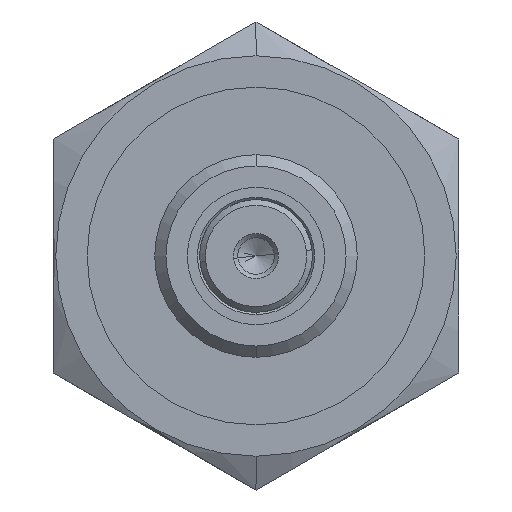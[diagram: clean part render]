
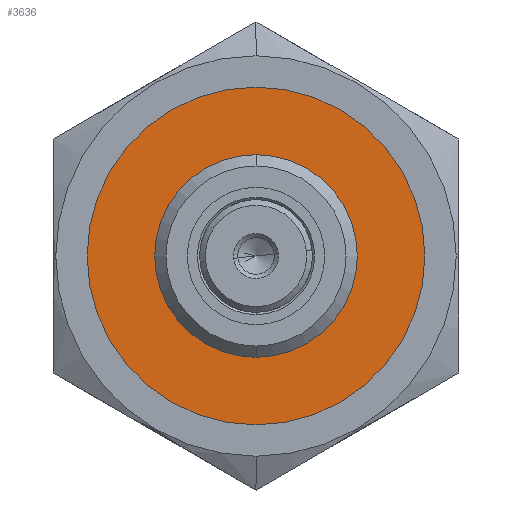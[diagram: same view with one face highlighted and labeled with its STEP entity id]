
A CAD part, front view. The second image highlights one B-rep face of the part: STEP entity #3636.
In plain terms, the highlighted planar face has unit normal (0, -1, 0).
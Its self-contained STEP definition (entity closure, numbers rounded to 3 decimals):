
#3318 = VERTEX_POINT ( 'NONE', #11553 ) ;
#3354 = EDGE_CURVE ( 'NONE', #3355, #3318, #11750, .T. ) ;
#3355 = VERTEX_POINT ( 'NONE', #11741 ) ;
#3472 = VERTEX_POINT ( 'NONE', #12148 ) ;
#3483 = EDGE_CURVE ( 'NONE', #3472, #3493, #12111, .T. ) ;
#3493 = VERTEX_POINT ( 'NONE', #12184 ) ;
#3553 = EDGE_LOOP ( 'NONE', ( #3554, #3556 ) ) ;
#3554 = ORIENTED_EDGE ( 'NONE', *, *, #3555, .T. ) ;
#3555 = EDGE_CURVE ( 'NONE', #3318, #3355, #12250, .T. ) ;
#3556 = ORIENTED_EDGE ( 'NONE', *, *, #3354, .T. ) ;
#3573 = EDGE_LOOP ( 'NONE', ( #3574, #3575 ) ) ;
#3574 = ORIENTED_EDGE ( 'NONE', *, *, #3483, .F. ) ;
#3575 = ORIENTED_EDGE ( 'NONE', *, *, #3603, .F. ) ;
#3603 = EDGE_CURVE ( 'NONE', #3493, #3472, #12299, .T. ) ;
#3636 = ADVANCED_FACE ( 'NONE', ( #12387, #12395 ), #12394, .F. ) ;
#11553 = CARTESIAN_POINT ( 'NONE',  ( 0., -37.5, 8.5 ) ) ;
#11741 = CARTESIAN_POINT ( 'NONE',  ( 0., -37.5, -8.5 ) ) ;
#11742 = DIRECTION ( 'NONE',  ( 0., 0., 1. ) ) ;
#11743 = DIRECTION ( 'NONE',  ( 0., 1., 0. ) ) ;
#11744 = CARTESIAN_POINT ( 'NONE',  ( 0., -37.5, 0. ) ) ;
#11745 = AXIS2_PLACEMENT_3D ( 'NONE', #11744, #11743, #11742 ) ;
#11750 = CIRCLE ( 'NONE', #11745, 8.5 ) ;
#12104 = CARTESIAN_POINT ( 'NONE',  ( 0., -37.5, 0. ) ) ;
#12111 = CIRCLE ( 'NONE', #12123, 15. ) ;
#12121 = DIRECTION ( 'NONE',  ( 0., 0., 1. ) ) ;
#12122 = DIRECTION ( 'NONE',  ( 0., 1., 0. ) ) ;
#12123 = AXIS2_PLACEMENT_3D ( 'NONE', #12104, #12122, #12121 ) ;
#12148 = CARTESIAN_POINT ( 'NONE',  ( 0., -37.5, 15. ) ) ;
#12184 = CARTESIAN_POINT ( 'NONE',  ( 0., -37.5, -15. ) ) ;
#12246 = DIRECTION ( 'NONE',  ( 0., 0., 1. ) ) ;
#12247 = DIRECTION ( 'NONE',  ( 0., 1., 0. ) ) ;
#12248 = CARTESIAN_POINT ( 'NONE',  ( 0., -37.5, 0. ) ) ;
#12249 = AXIS2_PLACEMENT_3D ( 'NONE', #12248, #12247, #12246 ) ;
#12250 = CIRCLE ( 'NONE', #12249, 8.5 ) ;
#12295 = DIRECTION ( 'NONE',  ( 0., 0., 1. ) ) ;
#12296 = DIRECTION ( 'NONE',  ( 0., 1., 0. ) ) ;
#12297 = CARTESIAN_POINT ( 'NONE',  ( 0., -37.5, 0. ) ) ;
#12298 = AXIS2_PLACEMENT_3D ( 'NONE', #12297, #12296, #12295 ) ;
#12299 = CIRCLE ( 'NONE', #12298, 15. ) ;
#12387 = FACE_BOUND ( 'NONE', #3553, .T. ) ;
#12388 = CARTESIAN_POINT ( 'NONE',  ( 15., -37.5, 0. ) ) ;
#12394 = PLANE ( 'NONE',  #12404 ) ;
#12395 = FACE_OUTER_BOUND ( 'NONE', #3573, .T. ) ;
#12404 = AXIS2_PLACEMENT_3D ( 'NONE', #12388, #12414, #12413 ) ;
#12413 = DIRECTION ( 'NONE',  ( 0., 0., 1. ) ) ;
#12414 = DIRECTION ( 'NONE',  ( 0., 1., 0. ) ) ;
